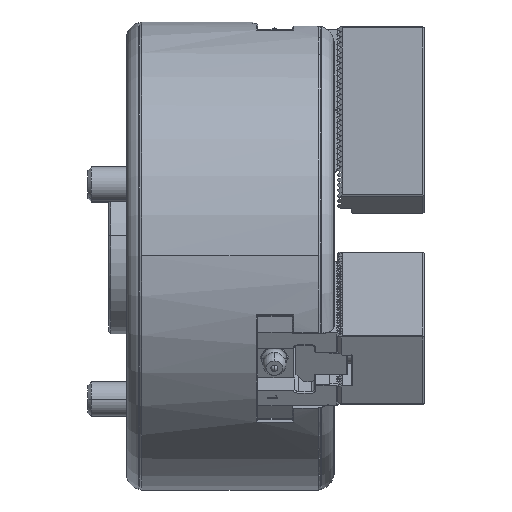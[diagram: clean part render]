
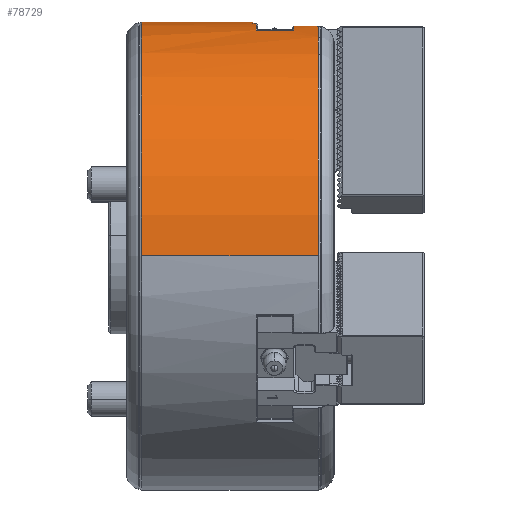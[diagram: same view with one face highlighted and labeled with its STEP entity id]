
A CAD part, top view. The second image highlights one B-rep face of the part: STEP entity #78729.
In plain terms, the highlighted cylindrical face has radius 67.5 mm (diameter 135 mm), a partial arc.
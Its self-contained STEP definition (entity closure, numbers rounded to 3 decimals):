
#104 = CIRCLE ( 'NONE', #60387, 67.5 ) ;
#148 = VERTEX_POINT ( 'NONE', #4761 ) ;
#224 = AXIS2_PLACEMENT_3D ( 'NONE', #74294, #53555, #9647 ) ;
#705 = CARTESIAN_POINT ( 'NONE',  ( -11.6, 0., 0. ) ) ;
#1419 = EDGE_CURVE ( 'NONE', #23147, #17305, #2810, .T. ) ;
#1652 = ORIENTED_EDGE ( 'NONE', *, *, #3218, .T. ) ;
#2070 = VERTEX_POINT ( 'NONE', #21479 ) ;
#2105 = DIRECTION ( 'NONE',  ( 0., 0., 1. ) ) ;
#2810 = LINE ( 'NONE', #73592, #44794 ) ;
#3218 = EDGE_CURVE ( 'NONE', #8463, #19893, #26904, .T. ) ;
#3807 = DIRECTION ( 'NONE',  ( 1., 0., 0. ) ) ;
#4060 = LINE ( 'NONE', #39465, #29041 ) ;
#4562 = CARTESIAN_POINT ( 'NONE',  ( 0., 66.316, 12.588 ) ) ;
#4761 = CARTESIAN_POINT ( 'NONE',  ( -23.4, 67.088, -7.444 ) ) ;
#5159 = CARTESIAN_POINT ( 'NONE',  ( -22.4, 65.103, 17.827 ) ) ;
#6204 = ORIENTED_EDGE ( 'NONE', *, *, #57900, .T. ) ;
#6371 = ORIENTED_EDGE ( 'NONE', *, *, #87660, .T. ) ;
#6871 = CIRCLE ( 'NONE', #42845, 67.5 ) ;
#6912 = VERTEX_POINT ( 'NONE', #75109 ) ;
#8463 = VERTEX_POINT ( 'NONE', #91488 ) ;
#9487 = ORIENTED_EDGE ( 'NONE', *, *, #87383, .F. ) ;
#9647 = DIRECTION ( 'NONE',  ( 0., 1., 0. ) ) ;
#12041 = DIRECTION ( 'NONE',  ( 1., 0., 0. ) ) ;
#12443 = CIRCLE ( 'NONE', #24520, 67.5 ) ;
#12974 = VECTOR ( 'NONE', #69679, 1000. ) ;
#13839 = EDGE_CURVE ( 'NONE', #73963, #2070, #104, .T. ) ;
#15967 = EDGE_CURVE ( 'NONE', #85406, #74258, #4060, .T. ) ;
#17055 = DIRECTION ( 'NONE',  ( 0., 1., 0. ) ) ;
#17305 = VERTEX_POINT ( 'NONE', #78360 ) ;
#18086 = CARTESIAN_POINT ( 'NONE',  ( 0., 0., 0. ) ) ;
#18158 = DIRECTION ( 'NONE',  ( -1., 0., 0. ) ) ;
#19709 = EDGE_CURVE ( 'NONE', #93341, #77823, #38253, .T. ) ;
#19893 = VERTEX_POINT ( 'NONE', #78754 ) ;
#19934 = CARTESIAN_POINT ( 'NONE',  ( -4.5, 0., -67.5 ) ) ;
#21043 = VERTEX_POINT ( 'NONE', #40594 ) ;
#21479 = CARTESIAN_POINT ( 'NONE',  ( -11.6, 65.103, 17.827 ) ) ;
#21873 = CARTESIAN_POINT ( 'NONE',  ( -11.6, 0., 0. ) ) ;
#22817 = DIRECTION ( 'NONE',  ( 0., 1., 0. ) ) ;
#22949 = CARTESIAN_POINT ( 'NONE',  ( -55.5, 0., 67.5 ) ) ;
#23071 = LINE ( 'NONE', #82484, #77845 ) ;
#23147 = VERTEX_POINT ( 'NONE', #47726 ) ;
#24141 = CARTESIAN_POINT ( 'NONE',  ( -4.5, 0., 0. ) ) ;
#24520 = AXIS2_PLACEMENT_3D ( 'NONE', #57219, #55370, #34588 ) ;
#25440 = EDGE_CURVE ( 'NONE', #19893, #6912, #34135, .T. ) ;
#25542 = CARTESIAN_POINT ( 'NONE',  ( -22.4, 0., 0. ) ) ;
#25695 = LINE ( 'NONE', #91275, #41915 ) ;
#26904 = CIRCLE ( 'NONE', #46533, 67.5 ) ;
#27421 = DIRECTION ( 'NONE',  ( 0., 0., -1. ) ) ;
#27427 = AXIS2_PLACEMENT_3D ( 'NONE', #53385, #60438, #22817 ) ;
#27558 = CARTESIAN_POINT ( 'NONE',  ( -11.6, 66.316, 12.588 ) ) ;
#28853 = ORIENTED_EDGE ( 'NONE', *, *, #29194, .F. ) ;
#28961 = CIRCLE ( 'NONE', #68101, 67.5 ) ;
#29041 = VECTOR ( 'NONE', #12041, 1000. ) ;
#29194 = EDGE_CURVE ( 'NONE', #73443, #148, #25695, .T. ) ;
#31357 = EDGE_CURVE ( 'NONE', #2070, #66327, #23071, .T. ) ;
#31617 = ORIENTED_EDGE ( 'NONE', *, *, #1419, .F. ) ;
#31621 = DIRECTION ( 'NONE',  ( 1., 0., 0. ) ) ;
#32849 = CARTESIAN_POINT ( 'NONE',  ( -22.4, 65.103, -17.827 ) ) ;
#33196 = FACE_OUTER_BOUND ( 'NONE', #75611, .T. ) ;
#34135 = LINE ( 'NONE', #49237, #57634 ) ;
#34494 = DIRECTION ( 'NONE',  ( 1., 0., 0. ) ) ;
#34588 = DIRECTION ( 'NONE',  ( 0., 0., -1. ) ) ;
#36042 = ORIENTED_EDGE ( 'NONE', *, *, #92666, .T. ) ;
#37621 = EDGE_CURVE ( 'NONE', #85677, #74258, #69529, .T. ) ;
#38006 = CIRCLE ( 'NONE', #27427, 67.5 ) ;
#38221 = VECTOR ( 'NONE', #34494, 1000. ) ;
#38253 = LINE ( 'NONE', #67022, #63477 ) ;
#38756 = EDGE_CURVE ( 'NONE', #93341, #21043, #38006, .T. ) ;
#38874 = DIRECTION ( 'NONE',  ( 0., 0., -1. ) ) ;
#39465 = CARTESIAN_POINT ( 'NONE',  ( 0., 0., 67.5 ) ) ;
#40594 = CARTESIAN_POINT ( 'NONE',  ( -55.5, 67.5, 0. ) ) ;
#40732 = DIRECTION ( 'NONE',  ( 1., 0., 0. ) ) ;
#41405 = ORIENTED_EDGE ( 'NONE', *, *, #19709, .F. ) ;
#41573 = LINE ( 'NONE', #77410, #38221 ) ;
#41615 = EDGE_CURVE ( 'NONE', #55168, #8463, #41573, .T. ) ;
#41915 = VECTOR ( 'NONE', #18158, 1000. ) ;
#42410 = CARTESIAN_POINT ( 'NONE',  ( -55.5, 0., 0. ) ) ;
#42845 = AXIS2_PLACEMENT_3D ( 'NONE', #42410, #48103, #69774 ) ;
#44794 = VECTOR ( 'NONE', #59921, 1000. ) ;
#46533 = AXIS2_PLACEMENT_3D ( 'NONE', #705, #66743, #2105 ) ;
#47500 = ORIENTED_EDGE ( 'NONE', *, *, #13839, .T. ) ;
#47696 = CARTESIAN_POINT ( 'NONE',  ( -23.4, 0., 0. ) ) ;
#47726 = CARTESIAN_POINT ( 'NONE',  ( -23.4, 67.088, 7.444 ) ) ;
#48103 = DIRECTION ( 'NONE',  ( 1., 0., 0. ) ) ;
#49237 = CARTESIAN_POINT ( 'NONE',  ( 0., 66.316, -12.588 ) ) ;
#50930 = ORIENTED_EDGE ( 'NONE', *, *, #38756, .T. ) ;
#51616 = CARTESIAN_POINT ( 'NONE',  ( -55.5, 0., -67.5 ) ) ;
#53385 = CARTESIAN_POINT ( 'NONE',  ( -55.5, 0., 0. ) ) ;
#53522 = CYLINDRICAL_SURFACE ( 'NONE', #59408, 67.5 ) ;
#53555 = DIRECTION ( 'NONE',  ( 1., 0., 0. ) ) ;
#54943 = ORIENTED_EDGE ( 'NONE', *, *, #31357, .T. ) ;
#55168 = VERTEX_POINT ( 'NONE', #32849 ) ;
#55370 = DIRECTION ( 'NONE',  ( -1., 0., 0. ) ) ;
#57219 = CARTESIAN_POINT ( 'NONE',  ( -22.4, 0., 0. ) ) ;
#57325 = CARTESIAN_POINT ( 'NONE',  ( -4.5, 66.316, 12.588 ) ) ;
#57634 = VECTOR ( 'NONE', #91201, 1000. ) ;
#57900 = EDGE_CURVE ( 'NONE', #66327, #17305, #84287, .T. ) ;
#58068 = ORIENTED_EDGE ( 'NONE', *, *, #41615, .T. ) ;
#59408 = AXIS2_PLACEMENT_3D ( 'NONE', #18086, #40732, #38874 ) ;
#59921 = DIRECTION ( 'NONE',  ( 1., 0., 0. ) ) ;
#59935 = ORIENTED_EDGE ( 'NONE', *, *, #65316, .F. ) ;
#60387 = AXIS2_PLACEMENT_3D ( 'NONE', #21873, #74577, #89648 ) ;
#60438 = DIRECTION ( 'NONE',  ( 1., 0., 0. ) ) ;
#61247 = DIRECTION ( 'NONE',  ( -1., 0., 0. ) ) ;
#61819 = DIRECTION ( 'NONE',  ( 0., 0., 1. ) ) ;
#63477 = VECTOR ( 'NONE', #31621, 1000. ) ;
#65316 = EDGE_CURVE ( 'NONE', #148, #23147, #66283, .T. ) ;
#66283 = CIRCLE ( 'NONE', #67811, 67.5 ) ;
#66327 = VERTEX_POINT ( 'NONE', #5159 ) ;
#66743 = DIRECTION ( 'NONE',  ( 1., 0., 0. ) ) ;
#67022 = CARTESIAN_POINT ( 'NONE',  ( 0., 0., -67.5 ) ) ;
#67811 = AXIS2_PLACEMENT_3D ( 'NONE', #47696, #3807, #61819 ) ;
#68101 = AXIS2_PLACEMENT_3D ( 'NONE', #24141, #81716, #17055 ) ;
#68974 = DIRECTION ( 'NONE',  ( -1., 0., 0. ) ) ;
#69181 = CARTESIAN_POINT ( 'NONE',  ( -22.4, 67.088, -7.444 ) ) ;
#69529 = CIRCLE ( 'NONE', #224, 67.5 ) ;
#69679 = DIRECTION ( 'NONE',  ( -1., 0., 0. ) ) ;
#69774 = DIRECTION ( 'NONE',  ( 0., 1., 0. ) ) ;
#70570 = AXIS2_PLACEMENT_3D ( 'NONE', #25542, #68974, #27421 ) ;
#71507 = ORIENTED_EDGE ( 'NONE', *, *, #25440, .T. ) ;
#73443 = VERTEX_POINT ( 'NONE', #69181 ) ;
#73592 = CARTESIAN_POINT ( 'NONE',  ( -22.7, 67.088, 7.444 ) ) ;
#73963 = VERTEX_POINT ( 'NONE', #27558 ) ;
#74258 = VERTEX_POINT ( 'NONE', #83017 ) ;
#74294 = CARTESIAN_POINT ( 'NONE',  ( -4.5, 0., 0. ) ) ;
#74577 = DIRECTION ( 'NONE',  ( 1., 0., 0. ) ) ;
#75109 = CARTESIAN_POINT ( 'NONE',  ( -4.5, 66.316, -12.588 ) ) ;
#75611 = EDGE_LOOP ( 'NONE', ( #50930, #82808, #81532, #77927, #36042, #47500, #54943, #6204, #31617, #59935, #28853, #6371, #58068, #1652, #71507, #9487, #41405 ) ) ;
#77410 = CARTESIAN_POINT ( 'NONE',  ( 0., 65.103, -17.827 ) ) ;
#77823 = VERTEX_POINT ( 'NONE', #19934 ) ;
#77845 = VECTOR ( 'NONE', #61247, 1000. ) ;
#77927 = ORIENTED_EDGE ( 'NONE', *, *, #37621, .F. ) ;
#78360 = CARTESIAN_POINT ( 'NONE',  ( -22.4, 67.088, 7.444 ) ) ;
#78729 = ADVANCED_FACE ( 'NONE', ( #33196 ), #53522, .T. ) ;
#78754 = CARTESIAN_POINT ( 'NONE',  ( -11.6, 66.316, -12.588 ) ) ;
#81532 = ORIENTED_EDGE ( 'NONE', *, *, #15967, .T. ) ;
#81716 = DIRECTION ( 'NONE',  ( 1., 0., 0. ) ) ;
#82484 = CARTESIAN_POINT ( 'NONE',  ( 0., 65.103, 17.827 ) ) ;
#82808 = ORIENTED_EDGE ( 'NONE', *, *, #90849, .T. ) ;
#83017 = CARTESIAN_POINT ( 'NONE',  ( -4.5, 0., 67.5 ) ) ;
#84287 = CIRCLE ( 'NONE', #70570, 67.5 ) ;
#84768 = LINE ( 'NONE', #4562, #12974 ) ;
#85406 = VERTEX_POINT ( 'NONE', #22949 ) ;
#85677 = VERTEX_POINT ( 'NONE', #57325 ) ;
#87383 = EDGE_CURVE ( 'NONE', #77823, #6912, #28961, .T. ) ;
#87660 = EDGE_CURVE ( 'NONE', #73443, #55168, #12443, .T. ) ;
#89648 = DIRECTION ( 'NONE',  ( 0., 0., 1. ) ) ;
#90849 = EDGE_CURVE ( 'NONE', #21043, #85406, #6871, .T. ) ;
#91201 = DIRECTION ( 'NONE',  ( 1., 0., 0. ) ) ;
#91275 = CARTESIAN_POINT ( 'NONE',  ( -22.7, 67.088, -7.444 ) ) ;
#91488 = CARTESIAN_POINT ( 'NONE',  ( -11.6, 65.103, -17.827 ) ) ;
#92666 = EDGE_CURVE ( 'NONE', #85677, #73963, #84768, .T. ) ;
#93341 = VERTEX_POINT ( 'NONE', #51616 ) ;
